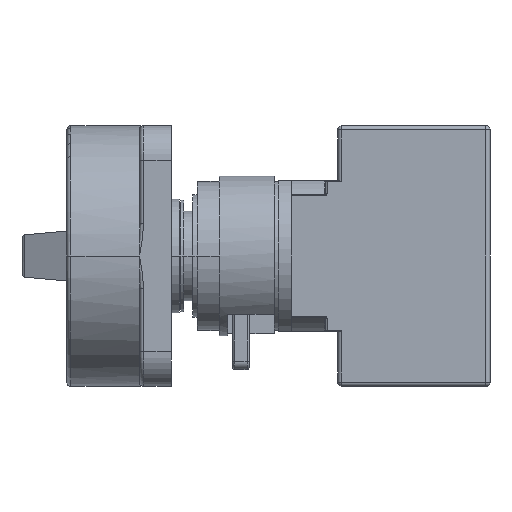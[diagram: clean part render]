
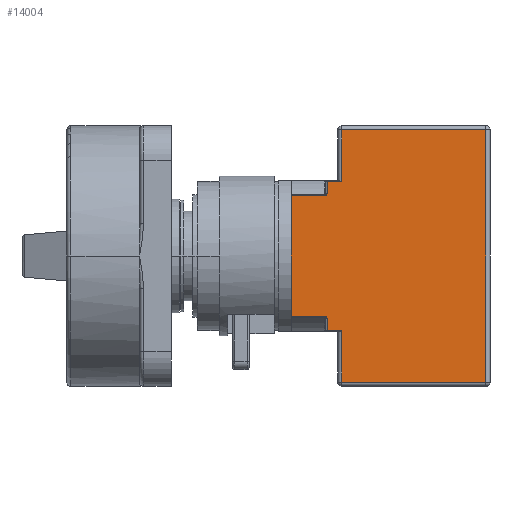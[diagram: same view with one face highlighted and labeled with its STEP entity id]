
A CAD part, left-side view. The second image highlights one B-rep face of the part: STEP entity #14004.
In plain terms, the highlighted planar face has unit normal (-1, 0, 0).
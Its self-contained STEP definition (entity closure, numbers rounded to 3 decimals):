
#65 = CARTESIAN_POINT ( 'NONE',  ( -24., 1., 0. ) ) ;
#130 = DIRECTION ( 'NONE',  ( 0., 0., -1. ) ) ;
#147 = EDGE_CURVE ( 'NONE', #15634, #1201, #14497, .T. ) ;
#166 = VERTEX_POINT ( 'NONE', #9210 ) ;
#197 = AXIS2_PLACEMENT_3D ( 'NONE', #16384, #8914, #1246 ) ;
#632 = EDGE_CURVE ( 'NONE', #5324, #4852, #16258, .T. ) ;
#822 = ORIENTED_EDGE ( 'NONE', *, *, #147, .T. ) ;
#875 = EDGE_CURVE ( 'NONE', #3752, #8225, #16189, .T. ) ;
#881 = DIRECTION ( 'NONE',  ( 0., 1., 0. ) ) ;
#915 = EDGE_CURVE ( 'NONE', #4982, #8225, #15399, .T. ) ;
#1002 = ORIENTED_EDGE ( 'NONE', *, *, #10805, .T. ) ;
#1201 = VERTEX_POINT ( 'NONE', #7179 ) ;
#1246 = DIRECTION ( 'NONE',  ( 0., 0., -1. ) ) ;
#1327 = CARTESIAN_POINT ( 'NONE',  ( -24., 48.8, -14.75 ) ) ;
#1448 = CARTESIAN_POINT ( 'NONE',  ( -24., 36.4, 0. ) ) ;
#1460 = LINE ( 'NONE', #13145, #8284 ) ;
#2013 = CARTESIAN_POINT ( 'NONE',  ( -24., 0., 0. ) ) ;
#2167 = LINE ( 'NONE', #9039, #11385 ) ;
#2431 = VECTOR ( 'NONE', #6422, 1000. ) ;
#2514 = CARTESIAN_POINT ( 'NONE',  ( -24., 0., 18.25 ) ) ;
#2733 = AXIS2_PLACEMENT_3D ( 'NONE', #2013, #10810, #3354 ) ;
#2936 = CARTESIAN_POINT ( 'NONE',  ( -24., 0., -18.25 ) ) ;
#3173 = ORIENTED_EDGE ( 'NONE', *, *, #13945, .T. ) ;
#3283 = CARTESIAN_POINT ( 'NONE',  ( -24., 48.8, 14.75 ) ) ;
#3347 = VECTOR ( 'NONE', #3707, 1000. ) ;
#3354 = DIRECTION ( 'NONE',  ( 0., 0., -1. ) ) ;
#3455 = EDGE_CURVE ( 'NONE', #3752, #4852, #6133, .T. ) ;
#3707 = DIRECTION ( 'NONE',  ( 0., 0., 1. ) ) ;
#3720 = AXIS2_PLACEMENT_3D ( 'NONE', #11254, #3839, #12487 ) ;
#3752 = VERTEX_POINT ( 'NONE', #10985 ) ;
#3839 = DIRECTION ( 'NONE',  ( -1., 0., 0. ) ) ;
#4187 = CARTESIAN_POINT ( 'NONE',  ( -24., 40.05, -18.5 ) ) ;
#4629 = ORIENTED_EDGE ( 'NONE', *, *, #13270, .T. ) ;
#4631 = CARTESIAN_POINT ( 'NONE',  ( -24., 40.05, -18.25 ) ) ;
#4632 = ORIENTED_EDGE ( 'NONE', *, *, #915, .T. ) ;
#4698 = CARTESIAN_POINT ( 'NONE',  ( -24., 1., -31. ) ) ;
#4852 = VERTEX_POINT ( 'NONE', #3283 ) ;
#4933 = LINE ( 'NONE', #2514, #11449 ) ;
#4982 = VERTEX_POINT ( 'NONE', #13348 ) ;
#5194 = CARTESIAN_POINT ( 'NONE',  ( -24., 36.4, -31. ) ) ;
#5324 = VERTEX_POINT ( 'NONE', #1327 ) ;
#5564 = ORIENTED_EDGE ( 'NONE', *, *, #3455, .T. ) ;
#5761 = VECTOR ( 'NONE', #881, 1000. ) ;
#5783 = DIRECTION ( 'NONE',  ( 0., 1., 0. ) ) ;
#6133 = LINE ( 'NONE', #16065, #5761 ) ;
#6422 = DIRECTION ( 'NONE',  ( 0., 0., -1. ) ) ;
#6494 = VERTEX_POINT ( 'NONE', #4698 ) ;
#7116 = PLANE ( 'NONE',  #2733 ) ;
#7179 = CARTESIAN_POINT ( 'NONE',  ( -24., 36.4, -18.25 ) ) ;
#7314 = LINE ( 'NONE', #11577, #10958 ) ;
#7580 = EDGE_CURVE ( 'NONE', #5324, #166, #2167, .T. ) ;
#7610 = EDGE_CURVE ( 'NONE', #1201, #14844, #8161, .T. ) ;
#7947 = CIRCLE ( 'NONE', #197, 0.5 ) ;
#7959 = DIRECTION ( 'NONE',  ( 0., 0., -1. ) ) ;
#8161 = LINE ( 'NONE', #1448, #14355 ) ;
#8225 = VERTEX_POINT ( 'NONE', #8634 ) ;
#8284 = VECTOR ( 'NONE', #5783, 1000. ) ;
#8634 = CARTESIAN_POINT ( 'NONE',  ( -24., 40.05, 15.25 ) ) ;
#8833 = VERTEX_POINT ( 'NONE', #13305 ) ;
#8914 = DIRECTION ( 'NONE',  ( -1., 0., 0. ) ) ;
#9039 = CARTESIAN_POINT ( 'NONE',  ( -24., 0., -14.75 ) ) ;
#9097 = DIRECTION ( 'NONE',  ( 0., 0., -1. ) ) ;
#9210 = CARTESIAN_POINT ( 'NONE',  ( -24., 40.55, -14.75 ) ) ;
#9316 = ORIENTED_EDGE ( 'NONE', *, *, #10059, .F. ) ;
#9671 = VECTOR ( 'NONE', #13743, 1000. ) ;
#9878 = ORIENTED_EDGE ( 'NONE', *, *, #13276, .T. ) ;
#10024 = CARTESIAN_POINT ( 'NONE',  ( -24., 0., -31. ) ) ;
#10059 = EDGE_CURVE ( 'NONE', #11468, #166, #7947, .T. ) ;
#10210 = VECTOR ( 'NONE', #7959, 1000. ) ;
#10375 = FACE_OUTER_BOUND ( 'NONE', #14988, .T. ) ;
#10805 = EDGE_CURVE ( 'NONE', #14844, #6494, #12917, .T. ) ;
#10810 = DIRECTION ( 'NONE',  ( 1., 0., 0. ) ) ;
#10958 = VECTOR ( 'NONE', #130, 1000. ) ;
#10985 = CARTESIAN_POINT ( 'NONE',  ( -24., 40.55, 14.75 ) ) ;
#11124 = CARTESIAN_POINT ( 'NONE',  ( -24., 48.8, -18.5 ) ) ;
#11215 = CARTESIAN_POINT ( 'NONE',  ( -24., 40.05, -15.25 ) ) ;
#11230 = ORIENTED_EDGE ( 'NONE', *, *, #632, .F. ) ;
#11254 = CARTESIAN_POINT ( 'NONE',  ( -24., 40.55, 15.25 ) ) ;
#11263 = DIRECTION ( 'NONE',  ( 0., 1., 0. ) ) ;
#11385 = VECTOR ( 'NONE', #12716, 1000. ) ;
#11415 = DIRECTION ( 'NONE',  ( 0., 0., 1. ) ) ;
#11449 = VECTOR ( 'NONE', #11263, 1000. ) ;
#11468 = VERTEX_POINT ( 'NONE', #11215 ) ;
#11531 = VECTOR ( 'NONE', #11646, 1000. ) ;
#11577 = CARTESIAN_POINT ( 'NONE',  ( -24., 36.4, 0. ) ) ;
#11646 = DIRECTION ( 'NONE',  ( 0., -1., 0. ) ) ;
#11726 = LINE ( 'NONE', #65, #14298 ) ;
#11912 = CARTESIAN_POINT ( 'NONE',  ( -24., 36.4, 18.25 ) ) ;
#12487 = DIRECTION ( 'NONE',  ( 0., 0., -1. ) ) ;
#12716 = DIRECTION ( 'NONE',  ( 0., -1., 0. ) ) ;
#12862 = VERTEX_POINT ( 'NONE', #11912 ) ;
#12917 = LINE ( 'NONE', #10024, #9671 ) ;
#13145 = CARTESIAN_POINT ( 'NONE',  ( -24., 0., 31. ) ) ;
#13219 = EDGE_CURVE ( 'NONE', #6494, #8833, #11726, .T. ) ;
#13270 = EDGE_CURVE ( 'NONE', #15849, #12862, #7314, .T. ) ;
#13276 = EDGE_CURVE ( 'NONE', #11468, #15634, #13491, .T. ) ;
#13305 = CARTESIAN_POINT ( 'NONE',  ( -24., 1., 31. ) ) ;
#13348 = CARTESIAN_POINT ( 'NONE',  ( -24., 40.05, 18.25 ) ) ;
#13358 = ORIENTED_EDGE ( 'NONE', *, *, #7610, .T. ) ;
#13491 = LINE ( 'NONE', #4187, #10210 ) ;
#13743 = DIRECTION ( 'NONE',  ( 0., -1., 0. ) ) ;
#13945 = EDGE_CURVE ( 'NONE', #8833, #15849, #1460, .T. ) ;
#14001 = CARTESIAN_POINT ( 'NONE',  ( -24., 36.4, 31. ) ) ;
#14004 = ADVANCED_FACE ( 'NONE', ( #10375 ), #7116, .F. ) ;
#14264 = ORIENTED_EDGE ( 'NONE', *, *, #7580, .T. ) ;
#14298 = VECTOR ( 'NONE', #11415, 1000. ) ;
#14355 = VECTOR ( 'NONE', #9097, 1000. ) ;
#14497 = LINE ( 'NONE', #2936, #11531 ) ;
#14844 = VERTEX_POINT ( 'NONE', #5194 ) ;
#14988 = EDGE_LOOP ( 'NONE', ( #15886, #5564, #11230, #14264, #9316, #9878, #822, #13358, #1002, #16184, #3173, #4629, #16025, #4632 ) ) ;
#15399 = LINE ( 'NONE', #16396, #2431 ) ;
#15634 = VERTEX_POINT ( 'NONE', #4631 ) ;
#15728 = EDGE_CURVE ( 'NONE', #12862, #4982, #4933, .T. ) ;
#15849 = VERTEX_POINT ( 'NONE', #14001 ) ;
#15886 = ORIENTED_EDGE ( 'NONE', *, *, #875, .F. ) ;
#16025 = ORIENTED_EDGE ( 'NONE', *, *, #15728, .T. ) ;
#16065 = CARTESIAN_POINT ( 'NONE',  ( -24., 0., 14.75 ) ) ;
#16184 = ORIENTED_EDGE ( 'NONE', *, *, #13219, .T. ) ;
#16189 = CIRCLE ( 'NONE', #3720, 0.5 ) ;
#16258 = LINE ( 'NONE', #11124, #3347 ) ;
#16384 = CARTESIAN_POINT ( 'NONE',  ( -24., 40.55, -15.25 ) ) ;
#16396 = CARTESIAN_POINT ( 'NONE',  ( -24., 40.05, 0. ) ) ;
